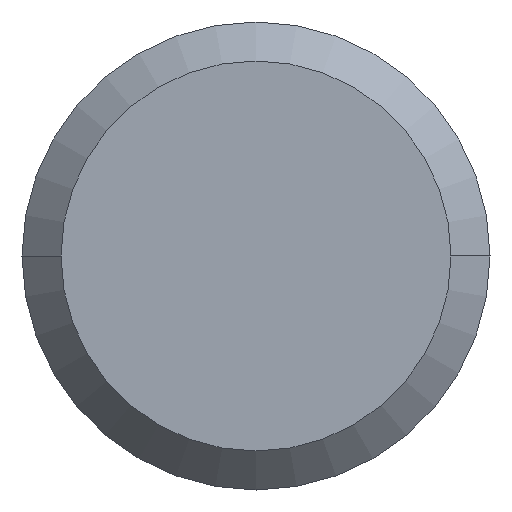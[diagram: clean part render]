
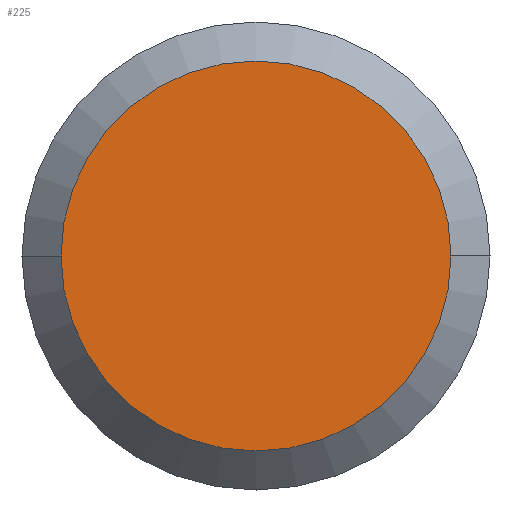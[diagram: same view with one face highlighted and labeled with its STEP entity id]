
A CAD part, left-side view. The second image highlights one B-rep face of the part: STEP entity #225.
In plain terms, the highlighted planar face has unit normal (-1, 0, 0).
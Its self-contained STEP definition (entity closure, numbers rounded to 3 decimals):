
#14 = DIRECTION ( 'NONE',  ( 1., 0., 0. ) ) ;
#34 = CARTESIAN_POINT ( 'NONE',  ( -43., 0., 0. ) ) ;
#54 = FACE_OUTER_BOUND ( 'NONE', #476, .T. ) ;
#73 = ORIENTED_EDGE ( 'NONE', *, *, #309, .F. ) ;
#75 = CARTESIAN_POINT ( 'NONE',  ( -43., 2.5, 0. ) ) ;
#92 = CIRCLE ( 'NONE', #343, 2.5 ) ;
#95 = AXIS2_PLACEMENT_3D ( 'NONE', #457, #504, #425 ) ;
#116 = PLANE ( 'NONE',  #95 ) ;
#200 = AXIS2_PLACEMENT_3D ( 'NONE', #395, #14, #310 ) ;
#225 = ADVANCED_FACE ( 'NONE', ( #54 ), #116, .T. ) ;
#233 = CIRCLE ( 'NONE', #200, 2.5 ) ;
#293 = VERTEX_POINT ( 'NONE', #352 ) ;
#309 = EDGE_CURVE ( 'NONE', #293, #449, #233, .T. ) ;
#310 = DIRECTION ( 'NONE',  ( 0., 1., 0. ) ) ;
#315 = ORIENTED_EDGE ( 'NONE', *, *, #506, .F. ) ;
#343 = AXIS2_PLACEMENT_3D ( 'NONE', #34, #492, #414 ) ;
#352 = CARTESIAN_POINT ( 'NONE',  ( -43., -2.5, 0. ) ) ;
#395 = CARTESIAN_POINT ( 'NONE',  ( -43., 0., 0. ) ) ;
#414 = DIRECTION ( 'NONE',  ( 0., 1., 0. ) ) ;
#425 = DIRECTION ( 'NONE',  ( 0., -1., 0. ) ) ;
#449 = VERTEX_POINT ( 'NONE', #75 ) ;
#457 = CARTESIAN_POINT ( 'NONE',  ( -43., 0., 0. ) ) ;
#476 = EDGE_LOOP ( 'NONE', ( #315, #73 ) ) ;
#492 = DIRECTION ( 'NONE',  ( 1., 0., 0. ) ) ;
#504 = DIRECTION ( 'NONE',  ( -1., 0., 0. ) ) ;
#506 = EDGE_CURVE ( 'NONE', #449, #293, #92, .T. ) ;
